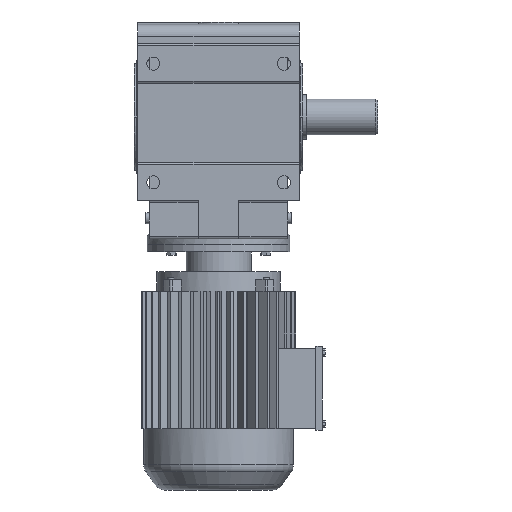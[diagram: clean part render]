
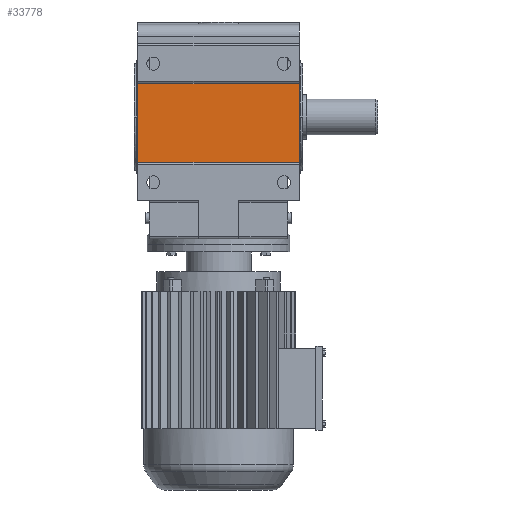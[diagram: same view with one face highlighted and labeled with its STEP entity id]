
A CAD part, front view. The second image highlights one B-rep face of the part: STEP entity #33778.
In plain terms, the highlighted planar face has unit normal (0, -1, 0).
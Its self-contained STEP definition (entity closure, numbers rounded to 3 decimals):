
#25386 = PLANE('',#25387);
#25387 = AXIS2_PLACEMENT_3D('',#25388,#25389,#25390);
#25388 = CARTESIAN_POINT('',(-68.,-77.,167.5));
#25389 = DIRECTION('',(1.,0.,0.));
#25390 = DIRECTION('',(0.,0.,-1.));
#28053 = PLANE('',#28054);
#28054 = AXIS2_PLACEMENT_3D('',#28055,#28056,#28057);
#28055 = CARTESIAN_POINT('',(68.,-77.,167.5));
#28056 = DIRECTION('',(1.,0.,0.));
#28057 = DIRECTION('',(0.,0.,-1.));
#31175 = VERTEX_POINT('',#31176);
#31176 = CARTESIAN_POINT('',(-68.,-87.,61.5));
#31195 = CYLINDRICAL_SURFACE('',#31196,2.);
#31196 = AXIS2_PLACEMENT_3D('',#31197,#31198,#31199);
#31197 = CARTESIAN_POINT('',(68.,-89.,61.5));
#31198 = DIRECTION('',(-1.,0.,0.));
#31199 = DIRECTION('',(0.,0.,1.));
#31206 = EDGE_CURVE('',#31207,#31175,#31209,.T.);
#31207 = VERTEX_POINT('',#31208);
#31208 = CARTESIAN_POINT('',(-68.,-87.,127.5));
#31209 = SURFACE_CURVE('',#31210,(#31214,#31221),.PCURVE_S1.);
#31210 = LINE('',#31211,#31212);
#31211 = CARTESIAN_POINT('',(-68.,-87.,127.5));
#31212 = VECTOR('',#31213,1.);
#31213 = DIRECTION('',(0.,0.,-1.));
#31214 = PCURVE('',#25386,#31215);
#31215 = DEFINITIONAL_REPRESENTATION('',(#31216),#31220);
#31216 = LINE('',#31217,#31218);
#31217 = CARTESIAN_POINT('',(40.,-10.));
#31218 = VECTOR('',#31219,1.);
#31219 = DIRECTION('',(1.,0.));
#31220 = ( GEOMETRIC_REPRESENTATION_CONTEXT(2) 
PARAMETRIC_REPRESENTATION_CONTEXT() REPRESENTATION_CONTEXT('2D SPACE',''
  ) );
#31221 = PCURVE('',#31222,#31227);
#31222 = PLANE('',#31223);
#31223 = AXIS2_PLACEMENT_3D('',#31224,#31225,#31226);
#31224 = CARTESIAN_POINT('',(68.,-87.,127.5));
#31225 = DIRECTION('',(0.,1.,0.));
#31226 = DIRECTION('',(0.,0.,1.));
#31227 = DEFINITIONAL_REPRESENTATION('',(#31228),#31232);
#31228 = LINE('',#31229,#31230);
#31229 = CARTESIAN_POINT('',(0.,-136.));
#31230 = VECTOR('',#31231,1.);
#31231 = DIRECTION('',(-1.,0.));
#31232 = ( GEOMETRIC_REPRESENTATION_CONTEXT(2) 
PARAMETRIC_REPRESENTATION_CONTEXT() REPRESENTATION_CONTEXT('2D SPACE',''
  ) );
#31255 = CYLINDRICAL_SURFACE('',#31256,2.);
#31256 = AXIS2_PLACEMENT_3D('',#31257,#31258,#31259);
#31257 = CARTESIAN_POINT('',(68.,-89.,127.5));
#31258 = DIRECTION('',(-1.,0.,0.));
#31259 = DIRECTION('',(0.,0.,1.));
#32457 = VERTEX_POINT('',#32458);
#32458 = CARTESIAN_POINT('',(68.,-87.,127.5));
#32483 = EDGE_CURVE('',#32457,#32484,#32486,.T.);
#32484 = VERTEX_POINT('',#32485);
#32485 = CARTESIAN_POINT('',(68.,-87.,61.5));
#32486 = SURFACE_CURVE('',#32487,(#32491,#32498),.PCURVE_S1.);
#32487 = LINE('',#32488,#32489);
#32488 = CARTESIAN_POINT('',(68.,-87.,127.5));
#32489 = VECTOR('',#32490,1.);
#32490 = DIRECTION('',(0.,0.,-1.));
#32491 = PCURVE('',#28053,#32492);
#32492 = DEFINITIONAL_REPRESENTATION('',(#32493),#32497);
#32493 = LINE('',#32494,#32495);
#32494 = CARTESIAN_POINT('',(40.,-10.));
#32495 = VECTOR('',#32496,1.);
#32496 = DIRECTION('',(1.,0.));
#32497 = ( GEOMETRIC_REPRESENTATION_CONTEXT(2) 
PARAMETRIC_REPRESENTATION_CONTEXT() REPRESENTATION_CONTEXT('2D SPACE',''
  ) );
#32498 = PCURVE('',#31222,#32499);
#32499 = DEFINITIONAL_REPRESENTATION('',(#32500),#32504);
#32500 = LINE('',#32501,#32502);
#32501 = CARTESIAN_POINT('',(0.,0.));
#32502 = VECTOR('',#32503,1.);
#32503 = DIRECTION('',(-1.,0.));
#32504 = ( GEOMETRIC_REPRESENTATION_CONTEXT(2) 
PARAMETRIC_REPRESENTATION_CONTEXT() REPRESENTATION_CONTEXT('2D SPACE',''
  ) );
#33418 = EDGE_CURVE('',#32457,#31207,#33419,.T.);
#33419 = SURFACE_CURVE('',#33420,(#33424,#33430),.PCURVE_S1.);
#33420 = LINE('',#33421,#33422);
#33421 = CARTESIAN_POINT('',(68.,-87.,127.5));
#33422 = VECTOR('',#33423,1.);
#33423 = DIRECTION('',(-1.,0.,0.));
#33424 = PCURVE('',#31255,#33425);
#33425 = DEFINITIONAL_REPRESENTATION('',(#33426),#33429);
#33426 = B_SPLINE_CURVE_WITH_KNOTS('',1,(#33427,#33428),.UNSPECIFIED.,
  .F.,.F.,(2,2),(0.,136.),.PIECEWISE_BEZIER_KNOTS.);
#33427 = CARTESIAN_POINT('',(1.571,0.));
#33428 = CARTESIAN_POINT('',(1.571,136.));
#33429 = ( GEOMETRIC_REPRESENTATION_CONTEXT(2) 
PARAMETRIC_REPRESENTATION_CONTEXT() REPRESENTATION_CONTEXT('2D SPACE',''
  ) );
#33430 = PCURVE('',#31222,#33431);
#33431 = DEFINITIONAL_REPRESENTATION('',(#33432),#33436);
#33432 = LINE('',#33433,#33434);
#33433 = CARTESIAN_POINT('',(0.,0.));
#33434 = VECTOR('',#33435,1.);
#33435 = DIRECTION('',(0.,-1.));
#33436 = ( GEOMETRIC_REPRESENTATION_CONTEXT(2) 
PARAMETRIC_REPRESENTATION_CONTEXT() REPRESENTATION_CONTEXT('2D SPACE',''
  ) );
#33442 = EDGE_CURVE('',#32484,#31175,#33443,.T.);
#33443 = SURFACE_CURVE('',#33444,(#33448,#33454),.PCURVE_S1.);
#33444 = LINE('',#33445,#33446);
#33445 = CARTESIAN_POINT('',(68.,-87.,61.5));
#33446 = VECTOR('',#33447,1.);
#33447 = DIRECTION('',(-1.,0.,0.));
#33448 = PCURVE('',#31195,#33449);
#33449 = DEFINITIONAL_REPRESENTATION('',(#33450),#33453);
#33450 = B_SPLINE_CURVE_WITH_KNOTS('',1,(#33451,#33452),.UNSPECIFIED.,
  .F.,.F.,(2,2),(0.,136.),.PIECEWISE_BEZIER_KNOTS.);
#33451 = CARTESIAN_POINT('',(1.571,0.));
#33452 = CARTESIAN_POINT('',(1.571,136.));
#33453 = ( GEOMETRIC_REPRESENTATION_CONTEXT(2) 
PARAMETRIC_REPRESENTATION_CONTEXT() REPRESENTATION_CONTEXT('2D SPACE',''
  ) );
#33454 = PCURVE('',#31222,#33455);
#33455 = DEFINITIONAL_REPRESENTATION('',(#33456),#33460);
#33456 = LINE('',#33457,#33458);
#33457 = CARTESIAN_POINT('',(-66.,0.));
#33458 = VECTOR('',#33459,1.);
#33459 = DIRECTION('',(0.,-1.));
#33460 = ( GEOMETRIC_REPRESENTATION_CONTEXT(2) 
PARAMETRIC_REPRESENTATION_CONTEXT() REPRESENTATION_CONTEXT('2D SPACE',''
  ) );
#33778 = ADVANCED_FACE('',(#33779),#31222,.F.);
#33779 = FACE_BOUND('',#33780,.T.);
#33780 = EDGE_LOOP('',(#33781,#33782,#33783,#33784));
#33781 = ORIENTED_EDGE('',*,*,#33418,.T.);
#33782 = ORIENTED_EDGE('',*,*,#31206,.T.);
#33783 = ORIENTED_EDGE('',*,*,#33442,.F.);
#33784 = ORIENTED_EDGE('',*,*,#32483,.F.);
